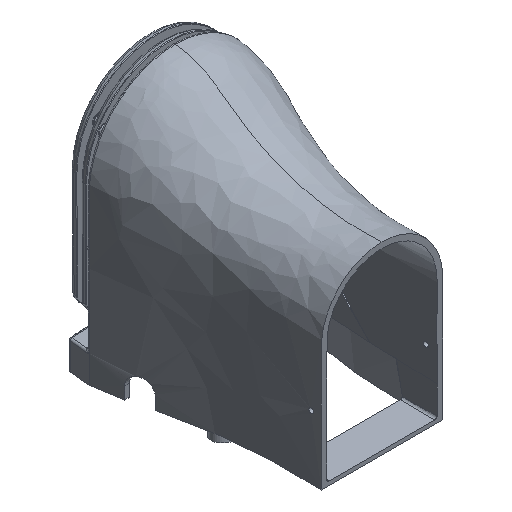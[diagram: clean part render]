
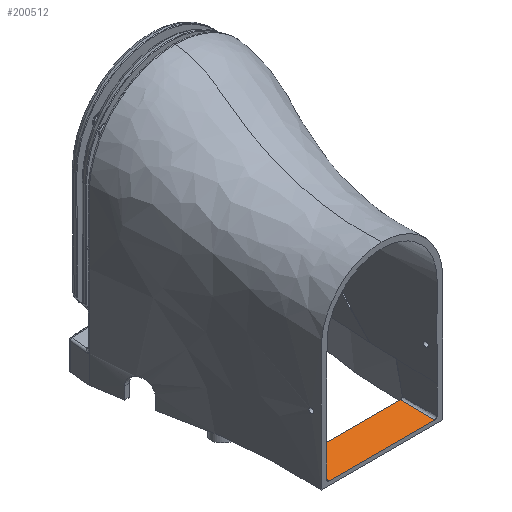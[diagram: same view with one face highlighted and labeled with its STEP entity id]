
A CAD part, isometric view. The second image highlights one B-rep face of the part: STEP entity #200512.
In plain terms, the highlighted planar face has unit normal (0, -0.059, 0.998).
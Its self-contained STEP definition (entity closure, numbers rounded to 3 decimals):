
#13964 = CARTESIAN_POINT ( 'NONE',  ( 107.543, -408.021, 9.297 ) ) ;
#16023 = CARTESIAN_POINT ( 'NONE',  ( 105.541, -362.233, 12. ) ) ;
#17192 = B_SPLINE_CURVE_WITH_KNOTS ( 'NONE', 3,
 ( #153010, #13964, #35367, #183461 ),
 .UNSPECIFIED., .F., .F.,
 ( 4, 4 ),
 ( 0., 1. ),
 .UNSPECIFIED. ) ;
#17308 = CARTESIAN_POINT ( 'NONE',  ( -105.541, -362.233, 12. ) ) ;
#26092 = VECTOR ( 'NONE', #123338, 1000. ) ;
#30149 = CARTESIAN_POINT ( 'NONE',  ( -108.503, -430., 8. ) ) ;
#35367 = CARTESIAN_POINT ( 'NONE',  ( 106.556, -385.432, 10.631 ) ) ;
#38940 = AXIS2_PLACEMENT_3D ( 'NONE', #92554, #240576, #113842 ) ;
#40793 = DIRECTION ( 'NONE',  ( 1., 0., 0. ) ) ;
#43265 = VERTEX_POINT ( 'NONE', #229102 ) ;
#45389 = CARTESIAN_POINT ( 'NONE',  ( -105.541, -362.233, 12. ) ) ;
#50136 = EDGE_CURVE ( 'NONE', #43265, #68142, #17192, .T. ) ;
#68142 = VERTEX_POINT ( 'NONE', #16023 ) ;
#74620 = VERTEX_POINT ( 'NONE', #30149 ) ;
#82492 = LINE ( 'NONE', #249174, #26092 ) ;
#92554 = CARTESIAN_POINT ( 'NONE',  ( 117., -362.233, 12. ) ) ;
#95562 = ORIENTED_EDGE ( 'NONE', *, *, #50136, .T. ) ;
#108197 = ORIENTED_EDGE ( 'NONE', *, *, #245784, .F. ) ;
#113842 = DIRECTION ( 'NONE',  ( 0., 0.998, 0.059 ) ) ;
#123338 = DIRECTION ( 'NONE',  ( -1., 0., 0. ) ) ;
#123538 = ORIENTED_EDGE ( 'NONE', *, *, #234926, .F. ) ;
#144918 = EDGE_CURVE ( 'NONE', #165908, #68142, #167445, .T. ) ;
#147826 = ORIENTED_EDGE ( 'NONE', *, *, #144918, .F. ) ;
#150881 = CARTESIAN_POINT ( 'NONE',  ( -108.503, -430., 8. ) ) ;
#153010 = CARTESIAN_POINT ( 'NONE',  ( 108.503, -430., 8. ) ) ;
#155447 = PLANE ( 'NONE',  #38940 ) ;
#158041 =( BOUNDED_CURVE ( )  B_SPLINE_CURVE ( 3, ( #150881, #256398, #172180, #45389 ),
 .UNSPECIFIED., .F., .T. ) 
 B_SPLINE_CURVE_WITH_KNOTS ( ( 4, 4 ),
 ( 0., 1. ),
 .UNSPECIFIED. ) 
 CURVE ( )  GEOMETRIC_REPRESENTATION_ITEM ( )  RATIONAL_B_SPLINE_CURVE ( ( 1., 1., 1., 1. ) ) 
 REPRESENTATION_ITEM ( '' )  );
#165908 = VERTEX_POINT ( 'NONE', #17308 ) ;
#167445 = LINE ( 'NONE', #188909, #223840 ) ;
#172180 = CARTESIAN_POINT ( 'NONE',  ( -106.529, -384.822, 10.667 ) ) ;
#183461 = CARTESIAN_POINT ( 'NONE',  ( 105.541, -362.233, 12. ) ) ;
#188284 = EDGE_LOOP ( 'NONE', ( #123538, #95562, #147826, #108197 ) ) ;
#188724 = FACE_OUTER_BOUND ( 'NONE', #188284, .T. ) ;
#188909 = CARTESIAN_POINT ( 'NONE',  ( 117., -362.233, 12. ) ) ;
#200512 = ADVANCED_FACE ( 'NONE', ( #188724 ), #155447, .F. ) ;
#223840 = VECTOR ( 'NONE', #40793, 1000. ) ;
#229102 = CARTESIAN_POINT ( 'NONE',  ( 108.503, -430., 8. ) ) ;
#234926 = EDGE_CURVE ( 'NONE', #43265, #74620, #82492, .T. ) ;
#240576 = DIRECTION ( 'NONE',  ( 0., 0.059, -0.998 ) ) ;
#245784 = EDGE_CURVE ( 'NONE', #74620, #165908, #158041, .T. ) ;
#249174 = CARTESIAN_POINT ( 'NONE',  ( 0., -430., 8. ) ) ;
#256398 = CARTESIAN_POINT ( 'NONE',  ( -107.517, -407.411, 9.333 ) ) ;
